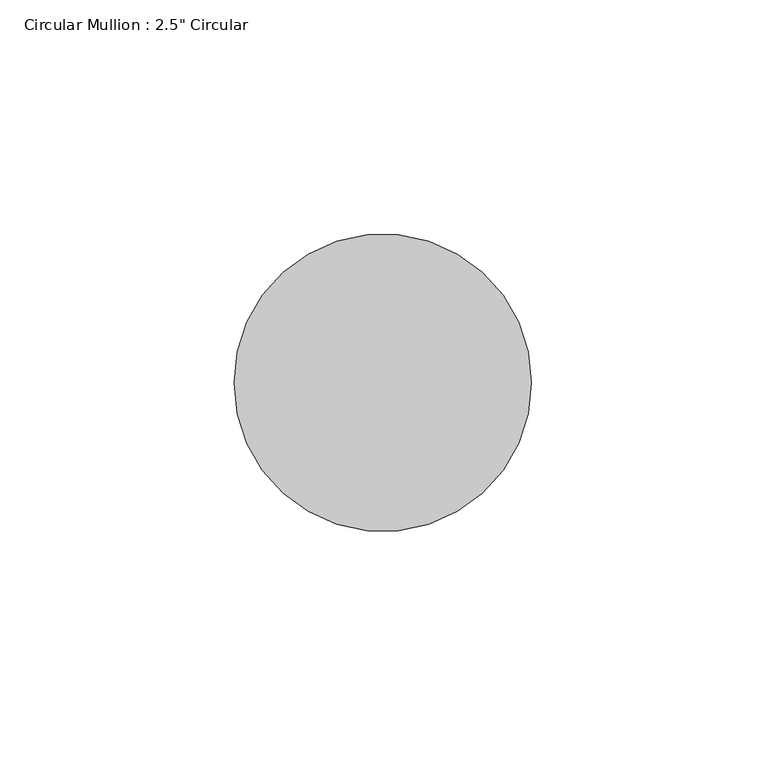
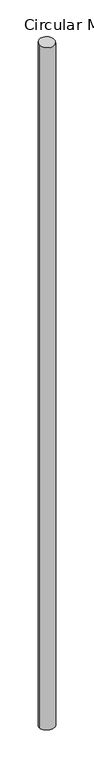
"""IFC4 building model written with IfcOpenShell, lengths in millimetres: member geometry."""

from ifc_helpers import new_model, si_unit, frame, origin, origin_with_axes, place, context, project, spatial, ellipse_curve, source, transform, mapped, element, save
from ifc_brep_helpers import plane_surface, cylinder_surface, advanced_brep


def member_d8d60749(model_context):
    return source(origin(), model_context, "Body", "AdvancedBrep", [
        advanced_brep(
        [(-31.75, 0.0, -0.450126), (31.75, 0.0, 0.450126), (31.75, 0.0, -3037.8489584), (-31.75, 0.0, -3036.6234341)],
        [
            (0, 1, ellipse_curve(frame((0.0, 0.0, 0.0), z_axis=(0.014121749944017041, 0.08722079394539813, -0.9960889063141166), x_axis=(0.1592016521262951, 0.9832842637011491, 0.08835661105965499)), 31.8746648, 31.75)),
            (1, 2),
            (2, 3, ellipse_curve(frame((0.0, 0.0, -3037.2361963), z_axis=(0.019198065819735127, 0.10062321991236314, 0.9947393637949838), x_axis=(-0.1864251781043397, -0.9771141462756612, 0.10243826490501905)), 31.9179085, 31.75)),
            (3, 0),
            (1, 0, ellipse_curve(frame((0.0, 0.0, 0.0), z_axis=(0.014121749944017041, 0.08722079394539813, -0.9960889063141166), x_axis=(0.1592016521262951, 0.9832842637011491, 0.08835661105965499)), 31.8746648, 31.75)),
            (3, 2, ellipse_curve(frame((0.0, 0.0, -3037.2361963), z_axis=(0.019198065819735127, 0.10062321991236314, 0.9947393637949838), x_axis=(-0.1864251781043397, -0.9771141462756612, 0.10243826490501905)), 31.9179085, 31.75)),
        ],
        [
            cylinder_surface(origin_with_axes(), 31.75),
            plane_surface(frame((300.8818206, -48.7151933, 0.0), z_axis=(-0.014121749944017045, -0.08722079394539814, 0.9960889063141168), x_axis=(-0.15920165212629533, -0.9832842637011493, -0.08835661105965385))),
            plane_surface(frame((299.3994232, -57.1228971, -3037.2361963), z_axis=(-0.01919806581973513, -0.10062321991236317, -0.9947393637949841), x_axis=(-0.1864251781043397, -0.9771141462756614, 0.10243826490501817))),
        ],
        [
            (0, [[1, 2, 3, 4]]),
            (0, [[5, -4, 6, -2]]),
            (1, [[-1, -5]]),
            (2, [[-6, -3]]),
        ],
    ),
    ])


if __name__ == "__main__":
    model = new_model("IFC4")
    model_context = context("Model", 3, world=origin())
    ifc_project = project(units=[si_unit("LENGTHUNIT", "METRE", prefix="MILLI")], contexts=[model_context])
    site = spatial("IfcSite", under=ifc_project)
    building = spatial("IfcBuilding", under=site)
    placement = place(None, origin())
    member_shape = member_d8d60749(model_context)
    element("IfcMember", 1, ObjectType="Circular Mullion : 2.5\" Circular", at=placement, inside=building, context=model_context, shape_type="MappedRepresentation", body=[
        mapped(member_shape, transform((0.0, 0.0, 0.0), x_axis=(1.0, 0.0, 0.0), y_axis=(0.0, 1.0, 0.0), z_axis=(0.0, 0.0, 1.0))),
    ])
    save(model, "model.ifc")
